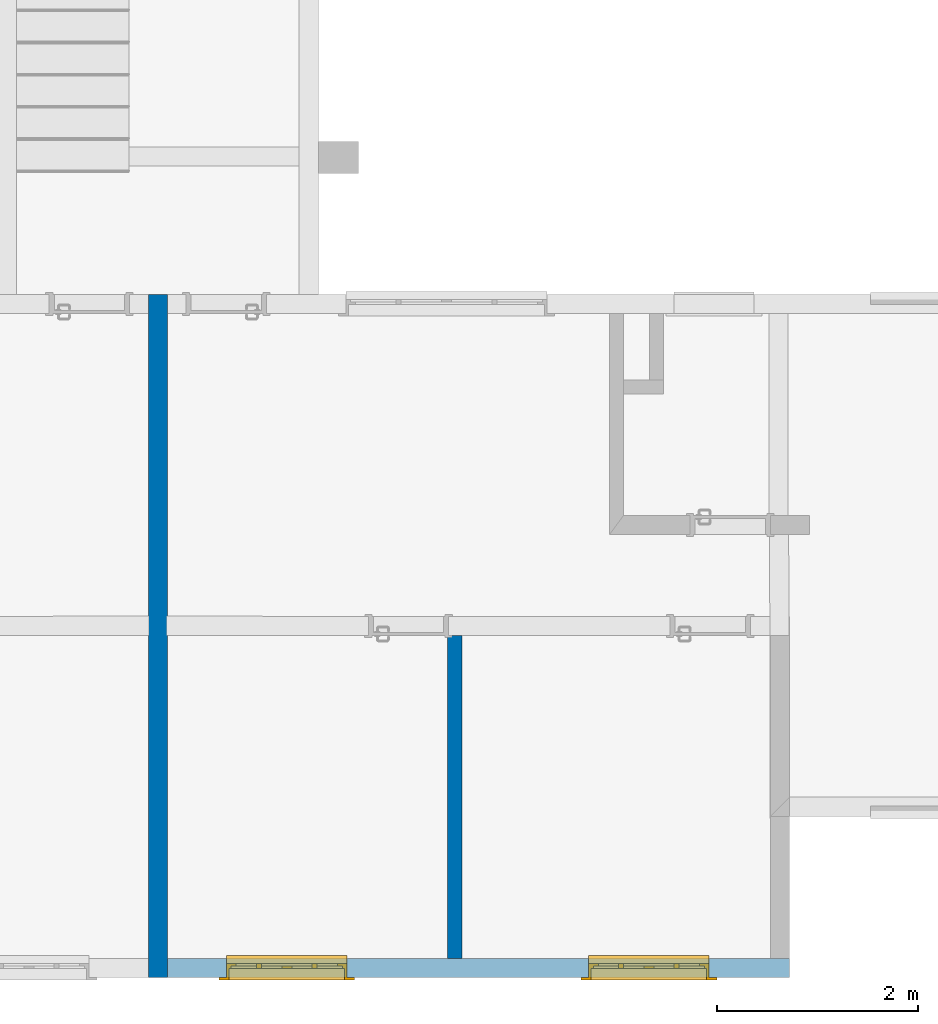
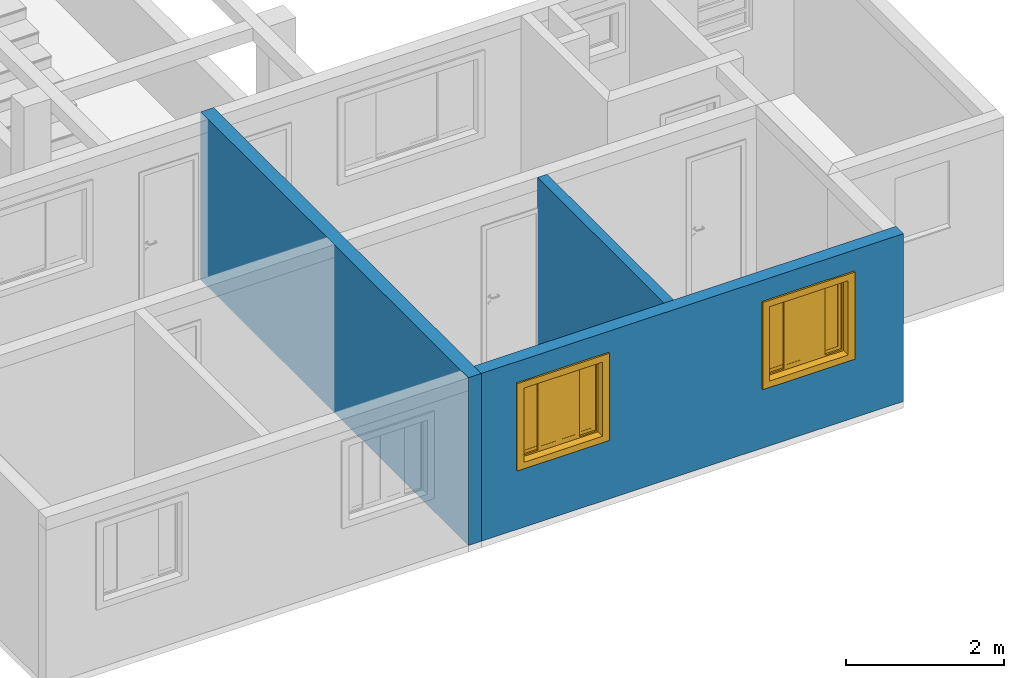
# One storey, part 12 of 43: 3 walls, 2 windows, 2 openings.
"""IFC2X3 building model written with IfcOpenShell, lengths in millimetres."""

from ifc_helpers import new_model, entity, si_unit, converted_unit, derived_unit, money_unit, direction, frame, origin_with_axes, origin_2d_with_axis, place, context, subcontext, project, spatial, polyline, rectangle, outline, extrude, open_shell, faceted_brep, surface_model, source, transform, mapped, material, layer, layer_set, layer_usage, type_object, element, fill, save


model = new_model("IFC2X3")

# Units and contexts
model_context = context("Model", 3, precision=0.01, world=origin_with_axes(), true_north=direction((0.0, 1.0)))
body_context = subcontext(model_context, "Body", "Model", "MODEL_VIEW")
ifc_project = project(units=[si_unit("LENGTHUNIT", "METRE", prefix="MILLI"), si_unit("AREAUNIT", "SQUARE_METRE"), si_unit("VOLUMEUNIT", "CUBIC_METRE"), converted_unit("PLANEANGLEUNIT", "DEGREE", entity("IfcPlaneAngleMeasure", 0.0174532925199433), si_unit("PLANEANGLEUNIT", "RADIAN"), dimensions=[0, 0, 0, 0, 0, 0, 0]), money_unit("USD"), converted_unit("TIMEUNIT", "Year", entity("IfcTimeMeasure", 31557600.0), si_unit("TIMEUNIT", "SECOND"), dimensions=[0, 0, 1, 0, 0, 0, 0]), si_unit("MASSUNIT", "GRAM", prefix="KILO"), si_unit("THERMODYNAMICTEMPERATUREUNIT", "DEGREE_CELSIUS"), si_unit("LUMINOUSINTENSITYUNIT", "LUMEN"), si_unit("ENERGYUNIT", "JOULE", prefix="MEGA"), derived_unit("THERMALCONDUCTANCEUNIT", [(si_unit("POWERUNIT", "WATT"), 1), (si_unit("LENGTHUNIT", "METRE"), -1), (si_unit("THERMODYNAMICTEMPERATUREUNIT", "KELVIN"), -1)]), derived_unit("SPECIFICHEATCAPACITYUNIT", [(si_unit("ENERGYUNIT", "JOULE"), 1), (si_unit("MASSUNIT", "GRAM", prefix="KILO"), -1), (si_unit("THERMODYNAMICTEMPERATUREUNIT", "KELVIN"), -1)]), derived_unit("MASSDENSITYUNIT", [(si_unit("MASSUNIT", "GRAM", prefix="KILO"), 1), (si_unit("VOLUMEUNIT", "CUBIC_METRE"), -1)])], contexts=[model_context])

# Site, building, storey
site_placement = place(None, origin_with_axes())
site = spatial("IfcSite", under=ifc_project, at=site_placement, Name="Local", CompositionType="ELEMENT")
building_placement = place(site_placement, origin_with_axes())
building = spatial("IfcBuilding", under=site, at=building_placement, Name="Construção", CompositionType="ELEMENT")
storey_placement = place(building_placement, origin_with_axes())
storey = spatial("IfcBuildingStorey", under=building, at=storey_placement, Name="Pavimento Tipo", CompositionType="ELEMENT", Elevation=0.0)

# Wall
ifc_material_1 = material(Name="Concreto - Estrutural")
ifc_layer_1 = layer(ifc_material_1, 190.0, ventilated="UNKNOWN")
ifc_layer_set_1 = layer_set([ifc_layer_1], Name="Concreto - Estrutural 190")
ifc_layer_usage_1 = layer_usage(ifc_layer_set_1, "AXIS2", "NEGATIVE", 0.0)
wall_type_1 = type_object("IfcWallType", Name="Concreto - Estrutural 190", PredefinedType="NOTDEFINED")
wall_1_placement = place(storey_placement, frame((63702.19973179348, -8360.441911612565, 0.0), z_axis=(0.0, 0.0, 1.0), x_axis=(0.0, 1.0, 0.0)))
element("IfcWallStandardCase", 1, at=wall_1_placement, inside=storey, type_object=wall_type_1, material=ifc_layer_usage_1, Name="Apartamentos 3 e 4 - Parede-006", context=body_context, shape_type="SweptSolid", body=[
    extrude(outline(polyline([(0.0, -189.9999999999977), (6792.903432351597, -189.9999999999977), (6792.903432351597, 0.0), (0.0, 0.0), (0.0, -189.9999999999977)])), origin_with_axes(), (0.0, 0.0, 1.0), 2600.000000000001),
])

# Wall, openings, windows
ifc_layer_usage_2 = layer_usage(ifc_layer_set_1, "AXIS2", "POSITIVE", 0.0)
wall_2_placement = place(storey_placement, frame((70079.53415063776, -8170.441911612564, 0.0), z_axis=(0.0, 0.0, 1.0), x_axis=(-1.0, 0.0, 0.0)))
wall_2 = element("IfcWallStandardCase", 2, at=wall_2_placement, inside=storey, type_object=wall_type_1, material=ifc_layer_usage_2, Name="Apartamento 4 - Parede-005", context=body_context, shape_type="SweptSolid", body=[
    extrude(outline(polyline([(0.0, 0.0), (6187.334418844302, 0.0), (6187.334418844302, 189.9999999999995), (0.0, 189.9999999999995), (0.0, 0.0)])), origin_with_axes(), (0.0, 0.0, 1.0), 2600.0),
])
opening_1_placement = place(wall_2_placement, frame((1399.999999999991, 0.0, 1000.0), z_axis=(0.0, 0.0, 1.0), x_axis=(1.0, 0.0, 0.0)))
opening_1 = element("IfcOpeningElement", 3, at=opening_1_placement, cuts=wall_2, Name="Apartamento 4 - J05", context=body_context, shape_type="SweptSolid", body=[
    extrude(rectangle(XDim=1199.999999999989, YDim=1200.0, at=origin_2d_with_axis()), frame((0.0, 49.99999999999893, 600.0000000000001), z_axis=(0.0, 1.0, 0.0), x_axis=(-1.0, 0.0, 0.0)), (0.0, 0.0, 1.0), 330.0),
    extrude(rectangle(XDim=1199.999999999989, YDim=1200.0, at=origin_2d_with_axis()), frame((0.0, 50.00000000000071, 600.0000000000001), z_axis=(0.0, -1.0, 0.0), x_axis=(-1.0, 0.0, 0.0)), (0.0, 0.0, 1.0), 240.0),
    extrude(rectangle(XDim=1349.999999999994, YDim=1350.0, at=origin_2d_with_axis()), frame((0.0, 189.9999999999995, 599.9999999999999), z_axis=(0.0, 1.0, 0.0), x_axis=(-1.0, 0.0, 0.0)), (0.0, 0.0, 1.0), 240.0),
])
opening_2_placement = place(wall_2_placement, frame((4999.999999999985, 0.0, 1000.0), z_axis=(0.0, 0.0, 1.0), x_axis=(1.0, 0.0, 0.0)))
opening_2 = element("IfcOpeningElement", 4, at=opening_2_placement, cuts=wall_2, Name="Apartamento 4 - J06", context=body_context, shape_type="SweptSolid", body=[
    extrude(rectangle(XDim=1199.999999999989, YDim=1200.0, at=origin_2d_with_axis()), frame((0.0, 50.00000000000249, 600.0000000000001), z_axis=(0.0, 1.0, 0.0), x_axis=(-1.0, 0.0, 0.0)), (0.0, 0.0, 1.0), 330.0),
    extrude(rectangle(XDim=1199.999999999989, YDim=1200.0, at=origin_2d_with_axis()), frame((0.0, 50.00000000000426, 600.0000000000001), z_axis=(0.0, -1.0, 0.0), x_axis=(-1.0, 0.0, 0.0)), (0.0, 0.0, 1.0), 240.0),
    extrude(rectangle(XDim=1349.999999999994, YDim=1350.0, at=origin_2d_with_axis()), frame((0.0, 190.0000000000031, 599.9999999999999), z_axis=(0.0, 1.0, 0.0), x_axis=(-1.0, 0.0, 0.0)), (0.0, 0.0, 1.0), 240.0),
])
window_style = type_object("IfcWindowStyle", Name="Janela de Correr 4-Folhas 27", ConstructionType="NOTDEFINED", OperationType="USERDEFINED", ParameterTakesPrecedence=False, Sizeable=False)
shared_shape = source(origin_with_axes(), body_context, "Body", "SurfaceModel", [
    faceted_brep([(600.0, -50.0, 4.999999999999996), (600.0, -50.0, 30.0), (600.0, -100.0, 27.37961103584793), (600.0, -100.0, 4.999999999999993), (-600.0, -50.0, 4.999999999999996), (-600.0, -50.0, 30.0), (-600.0, -100.0, 27.37961103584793), (-600.0, -130.0, 25.80737765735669), (600.0, -130.0, 25.80737765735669), (600.0, -130.0, 4.999999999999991), (-600.0, -130.0, 4.999999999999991), (-600.0, -100.0, 4.999999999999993)], [[[0, 1, 2, 3]], [[4, 5, 1, 0]], [[1, 5, 6, 7, 8, 2]], [[3, 2, 8, 9]], [[0, 3, 9, 10, 11, 4]], [[11, 6, 5, 4]], [[10, 7, 6, 11]], [[9, 8, 7, 10]]]),
    faceted_brep([(600.0, -50.0, 0.0), (600.0, -50.0, 4.999999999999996), (600.0, -100.0, 4.999999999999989), (600.0, -100.0, 0.0), (-600.0, -50.0, 0.0), (-600.0, -50.0, 4.999999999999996), (-600.0, -100.0, 4.999999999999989), (-600.0, -100.0, 0.0)], [[[0, 1, 2, 3]], [[4, 5, 1, 0]], [[1, 5, 6, 2]], [[3, 2, 6, 7]], [[0, 3, 7, 4]], [[7, 6, 5, 4]]]),
    faceted_brep([(600.0, 0.0, 0.0), (-600.0, 0.0, 0.0), (-600.0, 90.00000000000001, 0.0), (600.0, 90.00000000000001, 0.0), (600.0, 0.0, 1200.0), (-600.0, 0.0, 1200.0), (575.0, 0.0, 24.99999999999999), (-575.0, 0.0, 24.99999999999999), (-575.0, 0.0, 1175.0), (575.0, 0.0, 1175.0), (-600.0, 90.00000000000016, 1200.0), (600.0, 90.00000000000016, 1200.0), (575.0, 90.00000000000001, 24.99999999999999), (575.0, 90.00000000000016, 1175.0), (-575.0, 90.00000000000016, 1175.0), (-575.0, 90.00000000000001, 24.99999999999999)], [[[0, 1, 2, 3]], [[0, 4, 5, 1], [6, 7, 8, 9]], [[1, 5, 10, 2]], [[3, 2, 10, 11], [12, 13, 14, 15]], [[4, 0, 3, 11]], [[5, 4, 11, 10]], [[7, 6, 12, 15]], [[8, 7, 15, 14]], [[9, 8, 14, 13]], [[6, 9, 13, 12]]]),
    faceted_brep([(674.9999999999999, 115.0, -75.00000000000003), (674.9999999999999, 90.00000000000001, -75.00000000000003), (575.0, 90.00000000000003, 24.99999999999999), (575.0, 115.0, 24.99999999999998), (674.9999999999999, 115.0000000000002, 1275.0), (674.9999999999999, 90.00000000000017, 1275.0), (575.0, 90.00000000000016, 1175.0), (575.0, 115.0000000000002, 1175.0)], [[[0, 1, 2, 3]], [[4, 5, 1, 0]], [[1, 5, 6, 2]], [[3, 2, 6, 7]], [[0, 3, 7, 4]], [[7, 6, 5, 4]]]),
    faceted_brep([(-674.9999999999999, 115.0000000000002, 1275.0), (-674.9999999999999, 90.00000000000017, 1275.0), (-575.0, 90.00000000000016, 1175.0), (-575.0, 115.0000000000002, 1175.0), (-674.9999999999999, 115.0, -75.00000000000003), (-674.9999999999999, 90.00000000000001, -75.00000000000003), (-575.0, 90.00000000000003, 24.99999999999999), (-575.0, 115.0, 24.99999999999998)], [[[0, 1, 2, 3]], [[4, 5, 1, 0]], [[1, 5, 6, 2]], [[3, 2, 6, 7]], [[0, 3, 7, 4]], [[7, 6, 5, 4]]]),
    faceted_brep([(-674.9999999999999, 115.0, -75.00000000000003), (-674.9999999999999, 90.00000000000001, -75.00000000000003), (-575.0, 90.00000000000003, 24.99999999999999), (-575.0, 115.0, 24.99999999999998), (674.9999999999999, 115.0, -75.00000000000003), (674.9999999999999, 90.00000000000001, -75.00000000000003), (575.0, 90.00000000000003, 24.99999999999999), (575.0, 115.0, 24.99999999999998)], [[[0, 1, 2, 3]], [[4, 5, 1, 0]], [[1, 5, 6, 2]], [[3, 2, 6, 7]], [[0, 3, 7, 4]], [[7, 6, 5, 4]]]),
    faceted_brep([(674.9999999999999, 115.0000000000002, 1275.0), (674.9999999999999, 90.00000000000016, 1275.0), (575.0, 90.00000000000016, 1175.0), (575.0, 115.0000000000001, 1175.0), (-674.9999999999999, 115.0000000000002, 1275.0), (-674.9999999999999, 90.00000000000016, 1275.0), (-575.0, 90.00000000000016, 1175.0), (-575.0, 115.0000000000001, 1175.0)], [[[0, 1, 2, 3]], [[4, 5, 1, 0]], [[1, 5, 6, 2]], [[3, 2, 6, 7]], [[0, 3, 7, 4]], [[7, 6, 5, 4]]]),
    faceted_brep([(552.9999999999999, -50.00000000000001, 47.0), (552.9999999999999, -50.00000000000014, 1153.0), (552.9999999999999, 0.0, 1153.0), (552.9999999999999, 0.0, 47.00000000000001), (600.0, -50.00000000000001, 47.0), (600.0, -50.00000000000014, 1153.0), (600.0, 0.0, 1153.0), (600.0, 0.0, 47.00000000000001)], [[[0, 1, 2, 3]], [[0, 4, 5, 1]], [[1, 5, 6, 2]], [[3, 2, 6, 7]], [[4, 0, 3, 7]], [[5, 4, 7, 6]]]),
    faceted_brep([(-600.0, -50.00000000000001, 47.0), (-600.0, -50.00000000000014, 1153.0), (-600.0, 0.0, 1153.0), (-600.0, 0.0, 47.00000000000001), (-552.9999999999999, -50.00000000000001, 47.0), (-552.9999999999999, -50.00000000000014, 1153.0), (-552.9999999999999, 0.0, 1153.0), (-552.9999999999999, 0.0, 47.00000000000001)], [[[0, 1, 2, 3]], [[0, 4, 5, 1]], [[1, 5, 6, 2]], [[3, 2, 6, 7]], [[4, 0, 3, 7]], [[5, 4, 7, 6]]]),
    faceted_brep([(-600.0, -50.00000000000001, 47.0), (-552.9999999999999, -50.00000000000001, 47.0), (-552.9999999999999, 0.0, 47.00000000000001), (-600.0, 0.0, 47.00000000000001), (-600.0, -50.0, 0.0), (600.0, -50.0, 0.0), (600.0, -50.00000000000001, 47.0), (552.9999999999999, -50.00000000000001, 47.0), (552.9999999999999, 0.0, 47.00000000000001), (600.0, 0.0, 47.00000000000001), (600.0, 0.0, 0.0), (-600.0, 0.0, 0.0)], [[[0, 1, 2, 3]], [[0, 4, 5, 6, 7, 1]], [[1, 7, 8, 2]], [[3, 2, 8, 9, 10, 11]], [[4, 0, 3, 11]], [[5, 4, 11, 10]], [[6, 5, 10, 9]], [[7, 6, 9, 8]]]),
    faceted_brep([(-600.0, -50.00000000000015, 1200.0), (600.0, -50.00000000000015, 1200.0), (600.0, 0.0, 1200.0), (-600.0, 0.0, 1200.0), (-600.0, -50.00000000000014, 1153.0), (-552.9999999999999, -50.00000000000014, 1153.0), (-276.5, -50.00000000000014, 1153.0), (0.0, -50.00000000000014, 1153.0), (276.4999999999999, -50.00000000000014, 1153.0), (552.9999999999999, -50.00000000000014, 1153.0), (600.0, -50.00000000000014, 1153.0), (600.0, 0.0, 1153.0), (552.9999999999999, 0.0, 1153.0), (276.4999999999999, 0.0, 1153.0), (0.0, 0.0, 1153.0), (-276.5, 0.0, 1153.0), (-552.9999999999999, 0.0, 1153.0), (-600.0, 0.0, 1153.0)], [[[0, 1, 2, 3]], [[0, 4, 5, 6, 7, 8, 9, 10, 1]], [[1, 10, 11, 2]], [[3, 2, 11, 12, 13, 14, 15, 16, 17]], [[4, 0, 3, 17]], [[5, 4, 17, 16]], [[6, 5, 16, 15]], [[7, 6, 15, 14]], [[8, 7, 14, 13]], [[9, 8, 13, 12]], [[10, 9, 12, 11]]]),
    faceted_brep([(502.9999999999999, -50.00000000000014, 1103.0), (552.9999999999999, -50.00000000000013, 1103.0), (552.9999999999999, -25.00000000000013, 1103.0), (502.9999999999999, -25.00000000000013, 1103.0), (502.9999999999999, -50.00000000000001, 97.0), (552.9999999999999, -50.00000000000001, 97.0), (552.9999999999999, -25.0, 97.0), (502.9999999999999, -25.00000000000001, 97.0)], [[[0, 1, 2, 3]], [[0, 4, 5, 1]], [[1, 5, 6, 2]], [[3, 2, 6, 7]], [[4, 0, 3, 7]], [[5, 4, 7, 6]]]),
    faceted_brep([(301.4999999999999, -50.00000000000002, 97.0), (251.4999999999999, -50.00000000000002, 97.0), (251.4999999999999, -25.00000000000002, 97.0), (301.4999999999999, -25.00000000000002, 97.0), (301.4999999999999, -50.00000000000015, 1103.0), (251.4999999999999, -50.00000000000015, 1103.0), (251.4999999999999, -25.00000000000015, 1103.0), (301.4999999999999, -25.00000000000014, 1103.0)], [[[0, 1, 2, 3]], [[0, 4, 5, 1]], [[1, 5, 6, 2]], [[3, 2, 6, 7]], [[4, 0, 3, 7]], [[5, 4, 7, 6]]]),
    faceted_brep([(251.4999999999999, -50.00000000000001, 47.0), (251.4999999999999, -50.00000000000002, 97.0), (251.4999999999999, -25.00000000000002, 97.0), (251.4999999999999, -25.00000000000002, 47.0), (552.9999999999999, -50.0, 47.0), (552.9999999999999, -50.00000000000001, 97.0), (502.9999999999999, -50.00000000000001, 97.0), (301.4999999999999, -50.00000000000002, 97.0), (301.4999999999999, -25.00000000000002, 97.0), (502.9999999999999, -25.00000000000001, 97.0), (552.9999999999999, -25.0, 97.0), (552.9999999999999, -25.0, 47.0)], [[[0, 1, 2, 3]], [[0, 4, 5, 6, 7, 1]], [[1, 7, 8, 2]], [[3, 2, 8, 9, 10, 11]], [[4, 0, 3, 11]], [[5, 4, 11, 10]], [[6, 5, 10, 9]], [[7, 6, 9, 8]]]),
    faceted_brep([(552.9999999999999, -50.00000000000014, 1153.0), (552.9999999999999, -50.00000000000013, 1103.0), (552.9999999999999, -25.00000000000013, 1103.0), (552.9999999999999, -25.00000000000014, 1153.0), (251.4999999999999, -50.00000000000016, 1153.0), (251.4999999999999, -50.00000000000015, 1103.0), (301.4999999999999, -50.00000000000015, 1103.0), (502.9999999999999, -50.00000000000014, 1103.0), (502.9999999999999, -25.00000000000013, 1103.0), (301.4999999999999, -25.00000000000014, 1103.0), (251.4999999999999, -25.00000000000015, 1103.0), (251.4999999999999, -25.00000000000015, 1153.0)], [[[0, 1, 2, 3]], [[0, 4, 5, 6, 7, 1]], [[1, 7, 8, 2]], [[3, 2, 8, 9, 10, 11]], [[4, 0, 3, 11]], [[5, 4, 11, 10]], [[6, 5, 10, 9]], [[7, 6, 9, 8]]]),
    surface_model("IfcShellBasedSurfaceModel", [(502.9999999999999, -47.50000000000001, 97.0), (502.9999999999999, -47.50000000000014, 1103.0), (301.4999999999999, -47.50000000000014, 1103.0), (301.4999999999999, -47.50000000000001, 97.0)], [open_shell([[[0, 1, 2, 3]]])]),
    surface_model("IfcShellBasedSurfaceModel", [(502.9999999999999, -27.50000000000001, 97.0), (301.4999999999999, -27.50000000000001, 97.0), (301.4999999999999, -27.50000000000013, 1103.0), (502.9999999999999, -27.50000000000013, 1103.0)], [open_shell([[[0, 1, 2, 3]]])]),
    faceted_brep([(251.4999999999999, -25.00000000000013, 1103.0), (301.4999999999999, -25.00000000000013, 1103.0), (301.4999999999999, 0.0, 1103.0), (251.4999999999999, 0.0, 1103.0), (251.4999999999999, -25.00000000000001, 97.0), (301.4999999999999, -25.0, 97.0), (301.4999999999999, 0.0, 97.0), (251.4999999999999, 0.0, 97.0)], [[[0, 1, 2, 3]], [[0, 4, 5, 1]], [[1, 5, 6, 2]], [[3, 2, 6, 7]], [[4, 0, 3, 7]], [[5, 4, 7, 6]]]),
    faceted_brep([(49.99999999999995, -25.00000000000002, 97.0), (0.0, -25.00000000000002, 97.0), (0.0, 0.0, 97.0), (49.99999999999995, 0.0, 97.0), (49.99999999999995, -25.00000000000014, 1103.0), (0.0, -25.00000000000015, 1103.0), (0.0, 0.0, 1103.0), (49.99999999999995, 0.0, 1103.0)], [[[0, 1, 2, 3]], [[0, 4, 5, 1]], [[1, 5, 6, 2]], [[3, 2, 6, 7]], [[4, 0, 3, 7]], [[5, 4, 7, 6]]]),
    faceted_brep([(0.0, -25.00000000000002, 47.0), (0.0, -25.00000000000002, 97.0), (0.0, 0.0, 97.0), (0.0, 0.0, 47.0), (301.4999999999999, -25.0, 47.0), (301.4999999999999, -25.0, 97.0), (251.4999999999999, -25.00000000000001, 97.0), (49.99999999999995, -25.00000000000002, 97.0), (49.99999999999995, 0.0, 97.0), (251.4999999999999, 0.0, 97.0), (301.4999999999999, 0.0, 97.0), (301.4999999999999, 0.0, 47.0)], [[[0, 1, 2, 3]], [[0, 4, 5, 6, 7, 1]], [[1, 7, 8, 2]], [[3, 2, 8, 9, 10, 11]], [[4, 0, 3, 11]], [[5, 4, 11, 10]], [[6, 5, 10, 9]], [[7, 6, 9, 8]]]),
    faceted_brep([(301.4999999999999, -25.00000000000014, 1153.0), (301.4999999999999, -25.00000000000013, 1103.0), (301.4999999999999, 0.0, 1103.0), (301.4999999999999, 0.0, 1153.0), (0.0, -25.00000000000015, 1153.0), (0.0, -25.00000000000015, 1103.0), (49.99999999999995, -25.00000000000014, 1103.0), (251.4999999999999, -25.00000000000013, 1103.0), (251.4999999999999, 0.0, 1103.0), (49.99999999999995, 0.0, 1103.0), (0.0, 0.0, 1103.0), (0.0, 0.0, 1153.0)], [[[0, 1, 2, 3]], [[0, 4, 5, 6, 7, 1]], [[1, 7, 8, 2]], [[3, 2, 8, 9, 10, 11]], [[4, 0, 3, 11]], [[5, 4, 11, 10]], [[6, 5, 10, 9]], [[7, 6, 9, 8]]]),
    surface_model("IfcShellBasedSurfaceModel", [(251.4999999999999, -22.50000000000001, 97.0), (251.4999999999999, -22.50000000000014, 1103.0), (49.99999999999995, -22.50000000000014, 1103.0), (49.99999999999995, -22.50000000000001, 97.0)], [open_shell([[[0, 1, 2, 3]]])]),
    surface_model("IfcShellBasedSurfaceModel", [(251.4999999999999, -2.500000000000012, 97.0), (49.99999999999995, -2.500000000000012, 97.0), (49.99999999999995, -2.500000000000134, 1103.0), (251.4999999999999, -2.500000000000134, 1103.0)], [open_shell([[[0, 1, 2, 3]]])]),
    faceted_brep([(-50.00000000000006, -25.00000000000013, 1103.0), (0.0, -25.00000000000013, 1103.0), (0.0, 0.0, 1103.0), (-50.00000000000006, 0.0, 1103.0), (-50.00000000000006, -25.00000000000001, 97.0), (0.0, -25.0, 97.0), (0.0, 0.0, 97.0), (-50.00000000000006, 0.0, 97.0)], [[[0, 1, 2, 3]], [[0, 4, 5, 1]], [[1, 5, 6, 2]], [[3, 2, 6, 7]], [[4, 0, 3, 7]], [[5, 4, 7, 6]]]),
    faceted_brep([(-251.5000000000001, -25.00000000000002, 97.0), (-301.5000000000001, -25.00000000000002, 97.0), (-301.5000000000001, 0.0, 97.0), (-251.5000000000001, 0.0, 97.0), (-251.5000000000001, -25.00000000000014, 1103.0), (-301.5000000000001, -25.00000000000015, 1103.0), (-301.5000000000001, 0.0, 1103.0), (-251.5000000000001, 0.0, 1103.0)], [[[0, 1, 2, 3]], [[0, 4, 5, 1]], [[1, 5, 6, 2]], [[3, 2, 6, 7]], [[4, 0, 3, 7]], [[5, 4, 7, 6]]]),
    faceted_brep([(-301.5000000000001, -25.00000000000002, 47.0), (-301.5000000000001, -25.00000000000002, 97.0), (-301.5000000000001, 0.0, 97.0), (-301.5000000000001, 0.0, 47.0), (0.0, -25.0, 47.0), (0.0, -25.0, 97.0), (-50.00000000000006, -25.00000000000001, 97.0), (-251.5000000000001, -25.00000000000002, 97.0), (-251.5000000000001, 0.0, 97.0), (-50.00000000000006, 0.0, 97.0), (0.0, 0.0, 97.0), (0.0, 0.0, 47.0)], [[[0, 1, 2, 3]], [[0, 4, 5, 6, 7, 1]], [[1, 7, 8, 2]], [[3, 2, 8, 9, 10, 11]], [[4, 0, 3, 11]], [[5, 4, 11, 10]], [[6, 5, 10, 9]], [[7, 6, 9, 8]]]),
    faceted_brep([(0.0, -25.00000000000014, 1153.0), (0.0, -25.00000000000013, 1103.0), (0.0, 0.0, 1103.0), (0.0, 0.0, 1153.0), (-301.5000000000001, -25.00000000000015, 1153.0), (-301.5000000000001, -25.00000000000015, 1103.0), (-251.5000000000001, -25.00000000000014, 1103.0), (-50.00000000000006, -25.00000000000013, 1103.0), (-50.00000000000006, 0.0, 1103.0), (-251.5000000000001, 0.0, 1103.0), (-301.5000000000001, 0.0, 1103.0), (-301.5000000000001, 0.0, 1153.0)], [[[0, 1, 2, 3]], [[0, 4, 5, 6, 7, 1]], [[1, 7, 8, 2]], [[3, 2, 8, 9, 10, 11]], [[4, 0, 3, 11]], [[5, 4, 11, 10]], [[6, 5, 10, 9]], [[7, 6, 9, 8]]]),
    surface_model("IfcShellBasedSurfaceModel", [(-50.00000000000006, -22.50000000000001, 97.0), (-50.00000000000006, -22.50000000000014, 1103.0), (-251.5000000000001, -22.50000000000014, 1103.0), (-251.5000000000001, -22.50000000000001, 97.0)], [open_shell([[[0, 1, 2, 3]]])]),
    surface_model("IfcShellBasedSurfaceModel", [(-50.00000000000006, -2.500000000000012, 97.0), (-251.5000000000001, -2.500000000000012, 97.0), (-251.5000000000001, -2.500000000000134, 1103.0), (-50.00000000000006, -2.500000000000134, 1103.0)], [open_shell([[[0, 1, 2, 3]]])]),
    faceted_brep([(-301.5000000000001, -50.00000000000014, 1103.0), (-251.5000000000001, -50.00000000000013, 1103.0), (-251.5000000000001, -25.00000000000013, 1103.0), (-301.5000000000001, -25.00000000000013, 1103.0), (-301.5000000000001, -50.00000000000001, 97.0), (-251.5000000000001, -50.00000000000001, 97.0), (-251.5000000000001, -25.0, 97.0), (-301.5000000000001, -25.00000000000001, 97.0)], [[[0, 1, 2, 3]], [[0, 4, 5, 1]], [[1, 5, 6, 2]], [[3, 2, 6, 7]], [[4, 0, 3, 7]], [[5, 4, 7, 6]]]),
    faceted_brep([(-503.0, -50.00000000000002, 97.0), (-553.0, -50.00000000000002, 97.0), (-553.0, -25.00000000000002, 97.0), (-503.0, -25.00000000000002, 97.0), (-503.0, -50.00000000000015, 1103.0), (-553.0, -50.00000000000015, 1103.0), (-553.0, -25.00000000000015, 1103.0), (-503.0, -25.00000000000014, 1103.0)], [[[0, 1, 2, 3]], [[0, 4, 5, 1]], [[1, 5, 6, 2]], [[3, 2, 6, 7]], [[4, 0, 3, 7]], [[5, 4, 7, 6]]]),
    faceted_brep([(-553.0, -50.00000000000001, 47.0), (-553.0, -50.00000000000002, 97.0), (-553.0, -25.00000000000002, 97.0), (-553.0, -25.00000000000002, 47.0), (-251.5000000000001, -50.0, 47.0), (-251.5000000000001, -50.00000000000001, 97.0), (-301.5000000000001, -50.00000000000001, 97.0), (-503.0, -50.00000000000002, 97.0), (-503.0, -25.00000000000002, 97.0), (-301.5000000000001, -25.00000000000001, 97.0), (-251.5000000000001, -25.0, 97.0), (-251.5000000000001, -25.0, 47.0)], [[[0, 1, 2, 3]], [[0, 4, 5, 6, 7, 1]], [[1, 7, 8, 2]], [[3, 2, 8, 9, 10, 11]], [[4, 0, 3, 11]], [[5, 4, 11, 10]], [[6, 5, 10, 9]], [[7, 6, 9, 8]]]),
    faceted_brep([(-251.5000000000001, -50.00000000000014, 1153.0), (-251.5000000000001, -50.00000000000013, 1103.0), (-251.5000000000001, -25.00000000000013, 1103.0), (-251.5000000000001, -25.00000000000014, 1153.0), (-553.0, -50.00000000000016, 1153.0), (-553.0, -50.00000000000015, 1103.0), (-503.0, -50.00000000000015, 1103.0), (-301.5000000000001, -50.00000000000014, 1103.0), (-301.5000000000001, -25.00000000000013, 1103.0), (-503.0, -25.00000000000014, 1103.0), (-553.0, -25.00000000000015, 1103.0), (-553.0, -25.00000000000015, 1153.0)], [[[0, 1, 2, 3]], [[0, 4, 5, 6, 7, 1]], [[1, 7, 8, 2]], [[3, 2, 8, 9, 10, 11]], [[4, 0, 3, 11]], [[5, 4, 11, 10]], [[6, 5, 10, 9]], [[7, 6, 9, 8]]]),
    surface_model("IfcShellBasedSurfaceModel", [(-301.5, -47.50000000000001, 97.0), (-301.5, -47.50000000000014, 1103.0), (-503.0, -47.50000000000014, 1103.0), (-503.0, -47.50000000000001, 97.0)], [open_shell([[[0, 1, 2, 3]]])]),
    surface_model("IfcShellBasedSurfaceModel", [(-301.5, -27.50000000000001, 97.0), (-503.0, -27.50000000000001, 97.0), (-503.0, -27.50000000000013, 1103.0), (-301.5, -27.50000000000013, 1103.0)], [open_shell([[[0, 1, 2, 3]]])]),
])
window_1_placement = place(opening_2_placement, frame((-599.9999999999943, 0.0, 0.0), z_axis=(0.0, 0.0, 1.0), x_axis=(1.0, 0.0, 0.0)))
window_1 = element("IfcWindow", 5, at=window_1_placement, inside=storey, type_object=window_style, Name="Apartamento 4 - J06", ObjectType="WINDOW", OverallHeight=1200.0, OverallWidth=1200.0, context=body_context, shape_type="MappedRepresentation", body=[
    mapped(shared_shape, transform((599.9999999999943, 100.0000000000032, 0.0))),
])
fill(opening_2, window_1)
window_2_placement = place(opening_1_placement, frame((-599.9999999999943, 0.0, 0.0), z_axis=(0.0, 0.0, 1.0), x_axis=(1.0, 0.0, 0.0)))
window_2 = element("IfcWindow", 6, at=window_2_placement, inside=storey, type_object=window_style, Name="Apartamento 4 - J05", ObjectType="WINDOW", OverallHeight=1200.0, OverallWidth=1200.0, context=body_context, shape_type="MappedRepresentation", body=[
    mapped(shared_shape, transform((599.9999999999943, 99.99999999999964, 0.0))),
])
fill(opening_1, window_2)

# Wall
ifc_material_2 = material(Name="Concreto")
ifc_layer_2 = layer(ifc_material_2, 140.0, ventilated="UNKNOWN")
ifc_layer_set_2 = layer_set([ifc_layer_2], Name="Concreto 140")
ifc_layer_usage_3 = layer_usage(ifc_layer_set_2, "AXIS2", "POSITIVE", 0.0)
wall_type_2 = type_object("IfcWallType", Name="Concreto 140", PredefinedType="NOTDEFINED")
wall_3_placement = place(storey_placement, frame((66679.53415063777, -4769.348801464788, 0.0), z_axis=(0.0, 0.0, 1.0), x_axis=(0.0, -1.0, 0.0)))
element("IfcWallStandardCase", 7, at=wall_3_placement, inside=storey, type_object=wall_type_2, material=ifc_layer_usage_3, Name="Apartamento 4 - Parede-060", context=body_context, shape_type="SweptSolid", body=[
    extrude(outline(polyline([(190.0000098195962, 0.0), (3401.093110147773, 0.0), (3401.093110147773, 140.0000000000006), (190.045020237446, 140.0000000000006), (190.0000098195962, 0.0)])), origin_with_axes(), (0.0, 0.0, 1.0), 2600.0),
])

save(model, "model.ifc")
